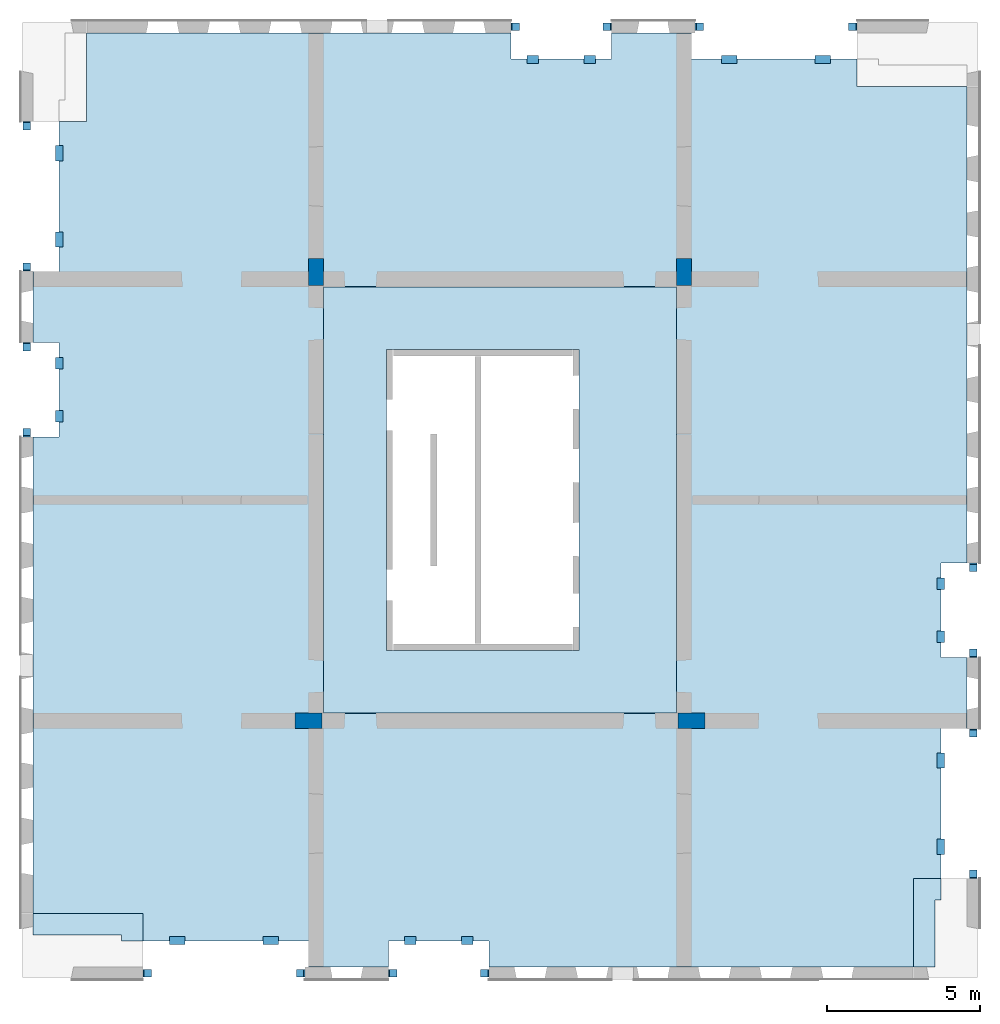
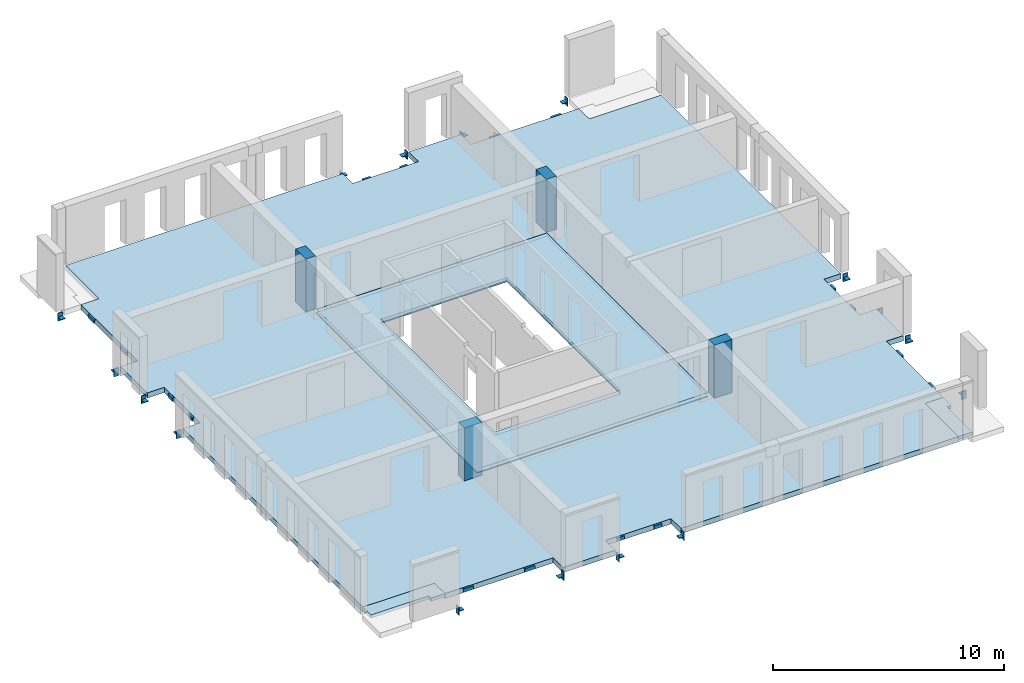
# One storey, part 1 of 6: 32 beams, 5 slabs, 4 columns, 3 openings.
"""IFC2X3 building model written with IfcOpenShell, lengths in millimetres."""

from ifc_helpers import new_model, entity, si_unit, converted_unit, derived_unit, direction, frame, frame_2d, origin, origin_2d_with_axis, place, context, subcontext, project, spatial, polyline, rectangle, outline, extrude, source, transform, mapped, material, layer, layer_set, layer_usage, type_object, type_shapes, element, save


model = new_model("IFC2X3")

# Units and contexts
model_context = context("Model", 3, precision=0.01, world=origin(), true_north=direction((6.12303176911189e-17, 1.0)))
body_context = subcontext(model_context, "Body", "Model", "MODEL_VIEW")
ifc_project = project(units=[si_unit("LENGTHUNIT", "METRE", prefix="MILLI"), si_unit("AREAUNIT", "SQUARE_METRE"), si_unit("VOLUMEUNIT", "CUBIC_METRE"), converted_unit("PLANEANGLEUNIT", "DEGREE", entity("IfcRatioMeasure", 0.0174532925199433), si_unit("PLANEANGLEUNIT", "RADIAN"), dimensions=[0, 0, 0, 0, 0, 0, 0]), si_unit("MASSUNIT", "GRAM", prefix="KILO"), derived_unit("MASSDENSITYUNIT", [(si_unit("MASSUNIT", "GRAM", prefix="KILO"), 1), (si_unit("LENGTHUNIT", "METRE"), -3)]), si_unit("TIMEUNIT", "SECOND"), si_unit("FREQUENCYUNIT", "HERTZ"), si_unit("THERMODYNAMICTEMPERATUREUNIT", "DEGREE_CELSIUS"), derived_unit("THERMALTRANSMITTANCEUNIT", [(si_unit("MASSUNIT", "GRAM", prefix="KILO"), 1), (si_unit("THERMODYNAMICTEMPERATUREUNIT", "KELVIN"), -1), (si_unit("TIMEUNIT", "SECOND"), -3)]), derived_unit("VOLUMETRICFLOWRATEUNIT", [(si_unit("LENGTHUNIT", "METRE"), 3), (si_unit("TIMEUNIT", "SECOND"), -1)]), si_unit("ELECTRICCURRENTUNIT", "AMPERE"), si_unit("ELECTRICVOLTAGEUNIT", "VOLT"), si_unit("POWERUNIT", "WATT"), si_unit("FORCEUNIT", "NEWTON", prefix="KILO"), si_unit("ILLUMINANCEUNIT", "LUX"), si_unit("LUMINOUSFLUXUNIT", "LUMEN"), si_unit("LUMINOUSINTENSITYUNIT", "CANDELA"), derived_unit("USERDEFINED", [(si_unit("MASSUNIT", "GRAM", prefix="KILO"), -1), (si_unit("LENGTHUNIT", "METRE"), -2), (si_unit("TIMEUNIT", "SECOND"), 3), (si_unit("LUMINOUSFLUXUNIT", "LUMEN"), 1)]), derived_unit("LINEARVELOCITYUNIT", [(si_unit("LENGTHUNIT", "METRE"), 1), (si_unit("TIMEUNIT", "SECOND"), -1)]), si_unit("PRESSUREUNIT", "PASCAL"), derived_unit("USERDEFINED", [(si_unit("LENGTHUNIT", "METRE"), -2), (si_unit("MASSUNIT", "GRAM", prefix="KILO"), 1), (si_unit("TIMEUNIT", "SECOND"), -2)])], contexts=[model_context])

# Site, building, storey
site_placement = place(None, origin())
site = spatial("IfcSite", under=ifc_project, at=site_placement, Name="Default", CompositionType="ELEMENT")
building_placement = place(site_placement, origin())
building = spatial("IfcBuilding", under=site, at=building_placement, Name="niet gebruiken", CompositionType="ELEMENT")
storey_placement = place(building_placement, frame((0.0, 0.0, 21060.0)))
storey = spatial("IfcBuildingStorey", under=building, at=storey_placement, Name="06 zesde verdieping", CompositionType="ELEMENT", Elevation=21060.0)

# Columns
ifc_material_1 = material(Name="NLRS_f2_beton ihwg")
column_type_1 = type_object("IfcColumnType", Name="500x880", PredefinedType="COLUMN", material=ifc_material_1)
shared_shape_1 = source(origin(), body_context, "Body", "SweptSolid", [
    extrude(rectangle(XDim=879.999999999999, YDim=500.000000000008, at=origin_2d_with_axis()), frame((135750.003540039, 24940.0, 20970.0), z_axis=(0.0, 0.0, 1.0), x_axis=(0.0, -1.0, 0.0)), (0.0, 0.0, 1.0), 2790.00000000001),
])
type_shapes(column_type_1, [shared_shape_1])
column_1_placement = place(storey_placement, frame((0.0, 0.0, -21060.0)))
element("IfcColumn", 1, at=column_1_placement, inside=storey, type_object=column_type_1, material=ifc_material_1, Name="NLRS_28.11_SCO_TLB_beton kolom ihwg_gen:500x880", ObjectType="500x880", context=body_context, shape_type="MappedRepresentation", body=[
    mapped(shared_shape_1, transform((0.0, 0.0, 0.0), scale=1.0)),
])
column_type_2 = type_object("IfcColumnType", Name="500x880", PredefinedType="COLUMN", material=ifc_material_1)
shared_shape_2 = source(origin(), body_context, "Body", "SweptSolid", [
    extrude(rectangle(XDim=879.999999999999, YDim=500.000000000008, at=origin_2d_with_axis()), frame((147750.0, 24940.0, 20970.0), z_axis=(0.0, 0.0, 1.0), x_axis=(0.0, -1.0, 0.0)), (0.0, 0.0, 1.0), 2790.00000000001),
])
type_shapes(column_type_2, [shared_shape_2])
column_2_placement = place(storey_placement, frame((0.0, 0.0, -21060.0)))
element("IfcColumn", 2, at=column_2_placement, inside=storey, type_object=column_type_2, material=ifc_material_1, Name="NLRS_28.11_SCO_TLB_beton kolom ihwg_gen:500x880", ObjectType="500x880", context=body_context, shape_type="MappedRepresentation", body=[
    mapped(shared_shape_2, transform((0.0, 0.0, 0.0), scale=1.0)),
])
column_type_3 = type_object("IfcColumnType", Name="500x880", PredefinedType="COLUMN", material=ifc_material_1)
shared_shape_3 = source(origin(), body_context, "Body", "SweptSolid", [
    extrude(rectangle(XDim=500.000000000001, YDim=880.000000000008, at=origin_2d_with_axis()), frame((135510.003540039, 10300.0115507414, 20970.0), z_axis=(0.0, 0.0, 1.0), x_axis=(0.0, -1.0, 0.0)), (0.0, 0.0, 1.0), 2790.00000000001),
])
type_shapes(column_type_3, [shared_shape_3])
column_3_placement = place(storey_placement, frame((0.0, 0.0, -21060.0)))
element("IfcColumn", 3, at=column_3_placement, inside=storey, type_object=column_type_3, material=ifc_material_1, Name="NLRS_28.11_SCO_TLB_beton kolom ihwg_gen:500x880", ObjectType="500x880", context=body_context, shape_type="MappedRepresentation", body=[
    mapped(shared_shape_3, transform((0.0, 0.0, 0.0), scale=1.0)),
])
column_type_4 = type_object("IfcColumnType", Name="500x880", PredefinedType="COLUMN", material=ifc_material_1)
shared_shape_4 = source(origin(), body_context, "Body", "SweptSolid", [
    extrude(rectangle(XDim=500.000000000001, YDim=880.000000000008, at=origin_2d_with_axis()), frame((147990.0, 10300.0, 20970.0), z_axis=(0.0, 0.0, 1.0), x_axis=(0.0, -1.0, 0.0)), (0.0, 0.0, 1.0), 2790.00000000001),
])
type_shapes(column_type_4, [shared_shape_4])
column_4_placement = place(storey_placement, frame((0.0, 0.0, -21060.0)))
element("IfcColumn", 4, at=column_4_placement, inside=storey, type_object=column_type_4, material=ifc_material_1, Name="NLRS_28.11_SCO_TLB_beton kolom ihwg_gen:500x880", ObjectType="500x880", context=body_context, shape_type="MappedRepresentation", body=[
    mapped(shared_shape_4, transform((0.0, 0.0, 0.0), scale=1.0)),
])

# Beams
ifc_material_2 = material(Name="NLRS_h2_staal")
beam_type_1 = type_object("IfcBeamType", Name="NLRS_28.11_SF_WPB_stalen schoen 1_gen", PredefinedType="BEAM", material=ifc_material_2)
shared_shape_5 = source(origin(), body_context, "Body", "SweptSolid", [
    extrude(outline(polyline([(-39.5000000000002, -20.5000000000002), (-1.50000000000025, -20.5000000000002), (20.5000000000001, 1.50000000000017), (20.5000000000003, 39.5000000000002), (-39.5000000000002, -20.5000000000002)])), frame((-77.5000000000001, -84.4999999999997, -55.5000000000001), z_axis=(1.0, 0.0, 0.0), x_axis=(0.0, -1.0, 0.0)), (0.0, 0.0, 1.0), 35.0),
    extrude(outline(polyline([(-39.5000000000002, -20.5000000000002), (-1.50000000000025, -20.5000000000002), (20.5000000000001, 1.50000000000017), (20.5000000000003, 39.5000000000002), (-39.5000000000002, -20.5000000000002)])), frame((42.5000000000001, -84.4999999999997, -55.5000000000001), z_axis=(1.0, 0.0, 0.0), x_axis=(0.0, -1.0, 0.0)), (0.0, 0.0, 1.0), 35.0),
    extrude(rectangle(XDim=235.0, YDim=34.9999999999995, at=frame_2d((0.0, 8.88178419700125e-15), x_axis=(1.0, 0.0))), frame((0.0, -122.5, -230.0), z_axis=(0.0, 0.0, 1.0), x_axis=(-1.0, 0.0, 0.0)), (0.0, 0.0, 1.0), 420.0),
    extrude(rectangle(XDim=235.0, YDim=240.0, at=origin_2d_with_axis()), frame((0.0, 15.0, -35.0), z_axis=(0.0, 0.0, 1.0), x_axis=(-1.0, 0.0, 0.0)), (0.0, 0.0, 1.0), 35.0),
])
type_shapes(beam_type_1, [shared_shape_5])
beam_1_placement = place(storey_placement, frame((157180.0, 12500.0, -310.0)))
element("IfcBeam", 5, at=beam_1_placement, inside=storey, type_object=beam_type_1, material=ifc_material_2, Name="NLRS_28.11_SF_WPB_stalen schoen 1_gen:NLRS_28.11_SF_WPB_stalen schoen 1_gen", ObjectType="NLRS_28.11_SF_WPB_stalen schoen 1_gen", context=body_context, shape_type="MappedRepresentation", body=[
    mapped(shared_shape_5, transform((0.0, 0.0, 0.0), scale=1.0)),
])
for number, where, z_axis, x_axis, name in (
    (6, (126320.0, 22500.0, -310.0), (0.0, 0.0, 1.0), (-1.0, 0.0, 0.0), "NLRS_28.11_SF_WPB_stalen schoen 1_gen:NLRS_28.11_SF_WPB_stalen schoen 1_gen"),
    (7, (157180.0, 15300.0, -310.0), (0.0, 0.0, 1.0), (-1.0, 0.0, 0.0), "NLRS_28.11_SF_WPB_stalen schoen 1_gen:NLRS_28.11_SF_WPB_stalen schoen 1_gen"),
):
    element("IfcBeam", number, at=place(storey_placement, frame(where, z_axis=z_axis, x_axis=x_axis)), inside=storey, type_object=beam_type_1, material=ifc_material_2, Name=name, ObjectType="NLRS_28.11_SF_WPB_stalen schoen 1_gen", context=body_context, shape_type="MappedRepresentation", body=[
        mapped(shared_shape_5, transform((0.0, 0.0, 0.0), scale=1.0)),
    ])
beam_2_placement = place(storey_placement, frame((126320.0, 19700.0, -310.0)))
element("IfcBeam", 8, at=beam_2_placement, inside=storey, type_object=beam_type_1, material=ifc_material_2, Name="NLRS_28.11_SF_WPB_stalen schoen 1_gen:NLRS_28.11_SF_WPB_stalen schoen 1_gen", ObjectType="NLRS_28.11_SF_WPB_stalen schoen 1_gen", context=body_context, shape_type="MappedRepresentation", body=[
    mapped(shared_shape_5, transform((0.0, 0.0, 0.0), scale=1.0)),
])
for number, where, z_axis, x_axis, name in (
    (9, (138250.0, 2070.0, -310.0), (0.0, 0.0, 1.0), (0.0, -1.0, 0.0), "NLRS_28.11_SF_WPB_stalen schoen 1_gen:NLRS_28.11_SF_WPB_stalen schoen 1_gen"),
    (10, (141250.0, 2070.0, -310.0), (0.0, 0.0, 1.0), (0.0, 1.0, 0.0), "NLRS_28.11_SF_WPB_stalen schoen 1_gen:NLRS_28.11_SF_WPB_stalen schoen 1_gen"),
    (11, (145250.0, 32930.0, -310.0), (0.0, 0.0, 1.0), (0.0, 1.0, 0.0), "NLRS_28.11_SF_WPB_stalen schoen 1_gen:NLRS_28.11_SF_WPB_stalen schoen 1_gen"),
    (12, (142250.0, 32930.0, -310.0), (0.0, 0.0, 1.0), (0.0, -1.0, 0.0), "NLRS_28.11_SF_WPB_stalen schoen 1_gen:NLRS_28.11_SF_WPB_stalen schoen 1_gen"),
):
    element("IfcBeam", number, at=place(storey_placement, frame(where, z_axis=z_axis, x_axis=x_axis)), inside=storey, type_object=beam_type_1, material=ifc_material_2, Name=name, ObjectType="NLRS_28.11_SF_WPB_stalen schoen 1_gen", context=body_context, shape_type="MappedRepresentation", body=[
        mapped(shared_shape_5, transform((0.0, 0.0, 0.0), scale=1.0)),
    ])
beam_type_2 = type_object("IfcBeamType", Name="NLRS_28.11_SF_WPB_stalen schoen 2_gen", PredefinedType="BEAM", material=ifc_material_2)
shared_shape_6 = source(origin(), body_context, "Body", "SweptSolid", [
    extrude(outline(polyline([(-39.5000000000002, -20.5000000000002), (-1.50000000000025, -20.5000000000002), (20.5000000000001, 1.50000000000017), (20.5000000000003, 39.5000000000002), (-39.5000000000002, -20.5000000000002)])), frame((-77.5000000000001, -79.4999999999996, -60.5000000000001), z_axis=(1.0, 0.0, 0.0), x_axis=(0.0, -1.0, 0.0)), (0.0, 0.0, 1.0), 35.0),
    extrude(outline(polyline([(-39.5000000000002, -20.5000000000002), (-1.50000000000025, -20.5000000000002), (20.5000000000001, 1.50000000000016), (20.5000000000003, 39.5000000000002), (-39.5000000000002, -20.5000000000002)])), frame((42.5000000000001, -79.4999999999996, -60.5000000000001), z_axis=(1.0, 0.0, 0.0), x_axis=(0.0, -1.0, 0.0)), (0.0, 0.0, 1.0), 35.0),
    extrude(rectangle(XDim=235.0, YDim=39.9999999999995, at=frame_2d((0.0, 8.88178419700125e-15), x_axis=(1.0, 0.0))), frame((0.0, -120.0, -230.0), z_axis=(0.0, 0.0, 1.0), x_axis=(-1.0, 0.0, 0.0)), (0.0, 0.0, 1.0), 420.0),
    extrude(rectangle(XDim=235.0, YDim=235.0, at=origin_2d_with_axis()), frame((0.0, 17.5000000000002, -40.0), z_axis=(0.0, 0.0, 1.0), x_axis=(-1.0, 0.0, 0.0)), (0.0, 0.0, 1.0), 39.9999999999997),
])
type_shapes(beam_type_2, [shared_shape_6])
beam_3_placement = place(storey_placement, frame((157180.0, 9900.0, -310.0), z_axis=(0.0, 0.0, 1.0), x_axis=(-1.0, 0.0, 0.0)))
element("IfcBeam", 13, at=beam_3_placement, inside=storey, type_object=beam_type_2, material=ifc_material_2, Name="NLRS_28.11_SF_WPB_stalen schoen 2_gen:NLRS_28.11_SF_WPB_stalen schoen 2_gen", ObjectType="NLRS_28.11_SF_WPB_stalen schoen 2_gen", context=body_context, shape_type="MappedRepresentation", body=[
    mapped(shared_shape_6, transform((0.0, 0.0, 0.0), scale=1.0)),
])
for number, where, name in (
    (14, (157180.0, 5300.0, -310.0), "NLRS_28.11_SF_WPB_stalen schoen 2_gen:NLRS_28.11_SF_WPB_stalen schoen 2_gen"),
    (15, (126320.0, 25100.0, -310.0), "NLRS_28.11_SF_WPB_stalen schoen 2_gen:NLRS_28.11_SF_WPB_stalen schoen 2_gen"),
):
    element("IfcBeam", number, at=place(storey_placement, frame(where)), inside=storey, type_object=beam_type_2, material=ifc_material_2, Name=name, ObjectType="NLRS_28.11_SF_WPB_stalen schoen 2_gen", context=body_context, shape_type="MappedRepresentation", body=[
        mapped(shared_shape_6, transform((0.0, 0.0, 0.0), scale=1.0)),
    ])
for number, where, z_axis, x_axis, name in (
    (16, (126320.0, 29700.0, -310.0), (0.0, 0.0, 1.0), (-1.0, 0.0, 0.0), "NLRS_28.11_SF_WPB_stalen schoen 2_gen:NLRS_28.11_SF_WPB_stalen schoen 2_gen"),
    (17, (135250.0, 2070.0, -310.0), (0.0, 0.0, 1.0), (0.0, 1.0, 0.0), "NLRS_28.11_SF_WPB_stalen schoen 2_gen:NLRS_28.11_SF_WPB_stalen schoen 2_gen"),
    (18, (130250.0, 2070.0, -310.0), (0.0, 0.0, 1.0), (0.0, -1.0, 0.0), "NLRS_28.11_SF_WPB_stalen schoen 2_gen:NLRS_28.11_SF_WPB_stalen schoen 2_gen"),
    (19, (148250.0, 32930.0, -310.0), (0.0, 0.0, 1.0), (0.0, -1.0, 0.0), "NLRS_28.11_SF_WPB_stalen schoen 2_gen:NLRS_28.11_SF_WPB_stalen schoen 2_gen"),
    (20, (153250.0, 32930.0, -310.0), (0.0, 0.0, 1.0), (0.0, 1.0, 0.0), "NLRS_28.11_SF_WPB_stalen schoen 2_gen:NLRS_28.11_SF_WPB_stalen schoen 2_gen"),
):
    element("IfcBeam", number, at=place(storey_placement, frame(where, z_axis=z_axis, x_axis=x_axis)), inside=storey, type_object=beam_type_2, material=ifc_material_2, Name=name, ObjectType="NLRS_28.11_SF_WPB_stalen schoen 2_gen", context=body_context, shape_type="MappedRepresentation", body=[
        mapped(shared_shape_6, transform((0.0, 0.0, 0.0), scale=1.0)),
    ])
beam_type_3 = type_object("IfcBeamType", Name="NLRS_28.11_SF_WPB_stalen handje 7 lang 375_gen:NLRS_28.11_SF_WPB_stalen handje 7_gen", PredefinedType="BEAM")
beam_4_placement = place(storey_placement, frame((156235.125015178, 9255.24886461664, -93.0), z_axis=(0.0, 0.0, 1.0), x_axis=(0.0, -1.0, 0.0)))
element("IfcBeam", 21, at=beam_4_placement, inside=storey, type_object=beam_type_3, material=ifc_material_2, Name="NLRS_28.11_SF_WPB_stalen handje 7 lang 375_gen:NLRS_28.11_SF_WPB_stalen handje 7_gen", ObjectType="NLRS_28.11_SF_WPB_stalen handje 7 lang 375_gen:NLRS_28.11_SF_WPB_stalen handje 7_gen", context=body_context, shape_type="SweptSolid", body=[
    extrude(outline(polyline([(-70.6666666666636, -153.333333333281), (-40.6666666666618, -153.333333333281), (-40.6666666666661, 61.6666666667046), (111.333333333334, 61.6666666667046), (111.333333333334, 91.6666666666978), (-70.6666666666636, 91.6666666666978), (-70.6666666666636, -153.333333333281)])), frame((0.0, -91.6666666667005, -70.6666666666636), z_axis=(1.0, 0.0, 0.0), x_axis=(0.0, 0.0, -1.0)), (0.0, 0.0, 1.0), 500.000000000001),
])
beam_5_placement = place(storey_placement, frame((156235.125015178, 6445.2458243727, -93.0), z_axis=(0.0, 0.0, 1.0), x_axis=(0.0, -1.0, 0.0)))
element("IfcBeam", 22, at=beam_5_placement, inside=storey, type_object=beam_type_3, material=ifc_material_2, Name="NLRS_28.11_SF_WPB_stalen handje 7 lang 375_gen:NLRS_28.11_SF_WPB_stalen handje 7_gen", ObjectType="NLRS_28.11_SF_WPB_stalen handje 7 lang 375_gen:NLRS_28.11_SF_WPB_stalen handje 7_gen", context=body_context, shape_type="SweptSolid", body=[
    extrude(outline(polyline([(-70.6666666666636, -153.33333333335), (-40.6666666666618, -153.33333333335), (-40.6666666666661, 61.6666666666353), (111.333333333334, 61.6666666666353), (111.333333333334, 91.6666666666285), (-70.6666666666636, 91.6666666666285), (-70.6666666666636, -153.33333333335)])), frame((0.0, -91.6666666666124, -70.6666666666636), z_axis=(1.0, 0.0, 0.0), x_axis=(0.0, 0.0, -1.0)), (0.0, 0.0, 1.0), 500.000000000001),
])
beam_6_placement = place(storey_placement, frame((127264.874984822, 25744.7511353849, -93.0), z_axis=(0.0, 0.0, 1.0), x_axis=(0.0, 1.0, 0.0)))
element("IfcBeam", 23, at=beam_6_placement, inside=storey, type_object=beam_type_3, material=ifc_material_2, Name="NLRS_28.11_SF_WPB_stalen handje 7 lang 375_gen:NLRS_28.11_SF_WPB_stalen handje 7_gen", ObjectType="NLRS_28.11_SF_WPB_stalen handje 7 lang 375_gen:NLRS_28.11_SF_WPB_stalen handje 7_gen", context=body_context, shape_type="SweptSolid", body=[
    extrude(outline(polyline([(-70.6666666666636, -153.333333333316), (-40.6666666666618, -153.333333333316), (-40.6666666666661, 61.66666666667), (111.333333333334, 61.66666666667), (111.333333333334, 91.6666666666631), (-70.6666666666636, 91.6666666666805), (-70.6666666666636, -153.333333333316)])), frame((0.0, -91.6666666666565, -70.6666666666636), z_axis=(1.0, 0.0, 0.0), x_axis=(0.0, 0.0, -1.0)), (0.0, 0.0, 1.0), 500.0),
])
beam_7_placement = place(storey_placement, frame((127264.874984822, 28554.7541756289, -93.0), z_axis=(0.0, 0.0, 1.0), x_axis=(0.0, 1.0, 0.0)))
element("IfcBeam", 24, at=beam_7_placement, inside=storey, type_object=beam_type_3, material=ifc_material_2, Name="NLRS_28.11_SF_WPB_stalen handje 7 lang 375_gen:NLRS_28.11_SF_WPB_stalen handje 7_gen", ObjectType="NLRS_28.11_SF_WPB_stalen handje 7 lang 375_gen:NLRS_28.11_SF_WPB_stalen handje 7_gen", context=body_context, shape_type="SweptSolid", body=[
    extrude(outline(polyline([(-70.6666666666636, -153.333333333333), (-40.6666666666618, -153.333333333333), (-40.6666666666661, 61.6666666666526), (111.333333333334, 61.6666666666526), (111.333333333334, 91.6666666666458), (-70.6666666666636, 91.6666666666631), (-70.6666666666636, -153.333333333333)])), frame((0.0, -91.6666666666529, -70.6666666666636), z_axis=(1.0, 0.0, 0.0), x_axis=(0.0, 0.0, -1.0)), (0.0, 0.0, 1.0), 500.0),
])
for number, where, z_axis, x_axis, name in (
    (25, (140862.631597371, 3015.23611279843, -93.0), (0.0, 0.0, 1.0), (-1.0, 0.0, 0.0), "NLRS_28.11_SF_WPB_stalen handje 7 lang 375_gen:NLRS_28.11_SF_WPB_stalen handje 7_gen"),
    (26, (139012.628555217, 3015.23611279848, -93.0), (0.0, 0.0, 1.0), (-1.0, 0.0, 0.0), "NLRS_28.11_SF_WPB_stalen handje 7 lang 375_gen:NLRS_28.11_SF_WPB_stalen handje 7_gen"),
):
    element("IfcBeam", number, at=place(storey_placement, frame(where, z_axis=z_axis, x_axis=x_axis)), inside=storey, type_object=beam_type_3, material=ifc_material_2, Name=name, ObjectType="NLRS_28.11_SF_WPB_stalen handje 7 lang 375_gen:NLRS_28.11_SF_WPB_stalen handje 7_gen", context=body_context, shape_type="SweptSolid", body=[
        extrude(outline(polyline([(-70.6666666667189, -153.333333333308), (-40.6666666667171, -153.333333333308), (-40.6666666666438, 61.6666666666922), (111.333333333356, 61.6666666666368), (111.333333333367, 91.6666666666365), (-70.6666666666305, 91.6666666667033), (-70.6666666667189, -153.333333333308)])), frame((0.0, -91.6666666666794, -70.6666666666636), z_axis=(1.0, 0.0, 0.0), x_axis=(0.0, 0.0, -1.0)), (0.0, 0.0, 1.0), 375.000000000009),
    ])
for number, where, z_axis, x_axis, name in (
    (27, (134525.131597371, 3015.2361127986, -93.0), (0.0, 0.0, 1.0), (-1.0, 0.0, 0.0), "NLRS_28.11_SF_WPB_stalen handje 7 lang 375_gen:NLRS_28.11_SF_WPB_stalen handje 7_gen"),
    (28, (131475.128555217, 3015.23611279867, -93.0), (0.0, 0.0, 1.0), (-1.0, 0.0, 0.0), "NLRS_28.11_SF_WPB_stalen handje 7 lang 375_gen:NLRS_28.11_SF_WPB_stalen handje 7_gen"),
):
    element("IfcBeam", number, at=place(storey_placement, frame(where, z_axis=z_axis, x_axis=x_axis)), inside=storey, type_object=beam_type_3, material=ifc_material_2, Name=name, ObjectType="NLRS_28.11_SF_WPB_stalen handje 7 lang 375_gen:NLRS_28.11_SF_WPB_stalen handje 7_gen", context=body_context, shape_type="SweptSolid", body=[
        extrude(outline(polyline([(-70.6666666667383, -153.333333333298), (-40.6666666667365, -153.333333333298), (-40.666666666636, 61.6666666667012), (111.333333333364, 61.6666666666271), (111.333333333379, 91.6666666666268), (-70.6666666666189, 91.666666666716), (-70.6666666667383, -153.333333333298)])), frame((0.0, -91.6666666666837, -70.6666666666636), z_axis=(1.0, 0.0, 0.0), x_axis=(0.0, 0.0, -1.0)), (0.0, 0.0, 1.0), 500.000000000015),
    ])
beam_8_placement = place(storey_placement, frame((142637.368402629, 31984.7638872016, -93.0)))
element("IfcBeam", 29, at=beam_8_placement, inside=storey, type_object=beam_type_3, material=ifc_material_2, Name="NLRS_28.11_SF_WPB_stalen handje 7 lang 375_gen:NLRS_28.11_SF_WPB_stalen handje 7_gen", ObjectType="NLRS_28.11_SF_WPB_stalen handje 7 lang 375_gen:NLRS_28.11_SF_WPB_stalen handje 7_gen", context=body_context, shape_type="SweptSolid", body=[
    extrude(outline(polyline([(-70.66666666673, -153.333333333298), (-40.6666666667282, -153.333333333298), (-40.6666666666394, 61.6666666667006), (111.333333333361, 61.6666666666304), (111.333333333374, 91.6666666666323), (-70.6666666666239, 91.6666666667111), (-70.66666666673, -153.333333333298)])), frame((0.0, -91.6666666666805, -70.6666666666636), z_axis=(1.0, 0.0, 0.0), x_axis=(0.0, 0.0, -1.0)), (0.0, 0.0, 1.0), 375.000000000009),
])
beam_9_placement = place(storey_placement, frame((144487.371444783, 31984.7638872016, -93.0)))
element("IfcBeam", 30, at=beam_9_placement, inside=storey, type_object=beam_type_3, material=ifc_material_2, Name="NLRS_28.11_SF_WPB_stalen handje 7 lang 375_gen:NLRS_28.11_SF_WPB_stalen handje 7_gen", ObjectType="NLRS_28.11_SF_WPB_stalen handje 7 lang 375_gen:NLRS_28.11_SF_WPB_stalen handje 7_gen", context=body_context, shape_type="SweptSolid", body=[
    extrude(outline(polyline([(-70.66666666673, -153.333333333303), (-40.6666666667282, -153.333333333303), (-40.6666666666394, 61.6666666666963), (111.333333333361, 61.6666666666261), (111.333333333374, 91.6666666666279), (-70.6666666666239, 91.6666666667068), (-70.66666666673, -153.333333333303)])), frame((0.0, -91.6666666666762, -70.6666666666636), z_axis=(1.0, 0.0, 0.0), x_axis=(0.0, 0.0, -1.0)), (0.0, 0.0, 1.0), 375.000000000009),
])
beam_10_placement = place(storey_placement, frame((148974.868402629, 31984.7638872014, -93.0)))
element("IfcBeam", 31, at=beam_10_placement, inside=storey, type_object=beam_type_3, material=ifc_material_2, Name="NLRS_28.11_SF_WPB_stalen handje 7 lang 375_gen:NLRS_28.11_SF_WPB_stalen handje 7_gen", ObjectType="NLRS_28.11_SF_WPB_stalen handje 7 lang 375_gen:NLRS_28.11_SF_WPB_stalen handje 7_gen", context=body_context, shape_type="SweptSolid", body=[
    extrude(outline(polyline([(-70.66666666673, -153.333333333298), (-40.6666666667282, -153.333333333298), (-40.6666666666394, 61.6666666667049), (111.333333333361, 61.6666666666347), (111.333333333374, 91.6666666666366), (-70.6666666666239, 91.6666666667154), (-70.66666666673, -153.333333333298)])), frame((0.0, -91.6666666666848, -70.6666666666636), z_axis=(1.0, 0.0, 0.0), x_axis=(0.0, 0.0, -1.0)), (0.0, 0.0, 1.0), 500.000000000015),
])
beam_11_placement = place(storey_placement, frame((152024.871444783, 31984.7638872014, -93.0)))
element("IfcBeam", 32, at=beam_11_placement, inside=storey, type_object=beam_type_3, material=ifc_material_2, Name="NLRS_28.11_SF_WPB_stalen handje 7 lang 375_gen:NLRS_28.11_SF_WPB_stalen handje 7_gen", ObjectType="NLRS_28.11_SF_WPB_stalen handje 7 lang 375_gen:NLRS_28.11_SF_WPB_stalen handje 7_gen", context=body_context, shape_type="SweptSolid", body=[
    extrude(outline(polyline([(-70.66666666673, -153.333333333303), (-40.6666666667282, -153.333333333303), (-40.6666666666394, 61.6666666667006), (111.333333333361, 61.6666666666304), (111.333333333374, 91.6666666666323), (-70.6666666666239, 91.6666666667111), (-70.66666666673, -153.333333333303)])), frame((0.0, -91.6666666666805, -70.6666666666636), z_axis=(1.0, 0.0, 0.0), x_axis=(0.0, 0.0, -1.0)), (0.0, 0.0, 1.0), 500.000000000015),
])
beam_12_placement = place(storey_placement, frame((156235.0, 14952.5097115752, -93.0), z_axis=(0.0, 0.0, 1.0), x_axis=(0.0, -1.0, 0.0)))
element("IfcBeam", 33, at=beam_12_placement, inside=storey, type_object=beam_type_3, material=ifc_material_2, Name="NLRS_28.11_SF_WPB_stalen handje 7 lang 375_gen:NLRS_28.11_SF_WPB_stalen handje 7_gen", ObjectType="NLRS_28.11_SF_WPB_stalen handje 7 lang 375_gen:NLRS_28.11_SF_WPB_stalen handje 7_gen", context=body_context, shape_type="SweptSolid", body=[
    extrude(outline(polyline([(-70.6666666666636, -153.333333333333), (-40.6666666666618, -153.333333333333), (-40.6666666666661, 61.66666666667), (111.333333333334, 61.66666666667), (111.333333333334, 91.6666666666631), (-70.6666666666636, 91.6666666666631), (-70.6666666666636, -153.333333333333)])), frame((0.0, -91.6666666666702, -70.6666666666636), z_axis=(1.0, 0.0, 0.0), x_axis=(0.0, 0.0, -1.0)), (0.0, 0.0, 1.0), 375.000000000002),
])
beam_13_placement = place(storey_placement, frame((156235.0, 13222.5097115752, -93.0), z_axis=(0.0, 0.0, 1.0), x_axis=(0.0, -1.0, 0.0)))
element("IfcBeam", 34, at=beam_13_placement, inside=storey, type_object=beam_type_3, material=ifc_material_2, Name="NLRS_28.11_SF_WPB_stalen handje 7 lang 375_gen:NLRS_28.11_SF_WPB_stalen handje 7_gen", ObjectType="NLRS_28.11_SF_WPB_stalen handje 7 lang 375_gen:NLRS_28.11_SF_WPB_stalen handje 7_gen", context=body_context, shape_type="SweptSolid", body=[
    extrude(outline(polyline([(-70.6666666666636, -153.333333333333), (-40.6666666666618, -153.333333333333), (-40.6666666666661, 61.66666666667), (111.333333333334, 61.66666666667), (111.333333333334, 91.6666666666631), (-70.6666666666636, 91.6666666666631), (-70.6666666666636, -153.333333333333)])), frame((0.0, -91.666666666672, -70.6666666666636), z_axis=(1.0, 0.0, 0.0), x_axis=(0.0, 0.0, -1.0)), (0.0, 0.0, 1.0), 375.000000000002),
])
beam_14_placement = place(storey_placement, frame((127265.0, 20047.4902884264, -93.0), z_axis=(0.0, 0.0, 1.0), x_axis=(0.0, 1.0, 0.0)))
element("IfcBeam", 35, at=beam_14_placement, inside=storey, type_object=beam_type_3, material=ifc_material_2, Name="NLRS_28.11_SF_WPB_stalen handje 7 lang 375_gen:NLRS_28.11_SF_WPB_stalen handje 7_gen", ObjectType="NLRS_28.11_SF_WPB_stalen handje 7 lang 375_gen:NLRS_28.11_SF_WPB_stalen handje 7_gen", context=body_context, shape_type="SweptSolid", body=[
    extrude(outline(polyline([(-70.6666666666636, -153.333333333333), (-40.6666666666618, -153.333333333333), (-40.6666666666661, 61.66666666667), (111.333333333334, 61.6666666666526), (111.333333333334, 91.6666666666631), (-70.6666666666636, 91.6666666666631), (-70.6666666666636, -153.333333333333)])), frame((0.0, -91.6666666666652, -70.6666666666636), z_axis=(1.0, 0.0, 0.0), x_axis=(0.0, 0.0, -1.0)), (0.0, 0.0, 1.0), 375.000000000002),
])
beam_15_placement = place(storey_placement, frame((127265.0, 21777.4902884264, -93.0), z_axis=(0.0, 0.0, 1.0), x_axis=(0.0, 1.0, 0.0)))
element("IfcBeam", 36, at=beam_15_placement, inside=storey, type_object=beam_type_3, material=ifc_material_2, Name="NLRS_28.11_SF_WPB_stalen handje 7 lang 375_gen:NLRS_28.11_SF_WPB_stalen handje 7_gen", ObjectType="NLRS_28.11_SF_WPB_stalen handje 7 lang 375_gen:NLRS_28.11_SF_WPB_stalen handje 7_gen", context=body_context, shape_type="SweptSolid", body=[
    extrude(outline(polyline([(-70.6666666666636, -153.333333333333), (-40.6666666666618, -153.333333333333), (-40.6666666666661, 61.66666666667), (111.333333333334, 61.6666666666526), (111.333333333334, 91.6666666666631), (-70.6666666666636, 91.6666666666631), (-70.6666666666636, -153.333333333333)])), frame((0.0, -91.6666666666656, -70.6666666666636), z_axis=(1.0, 0.0, 0.0), x_axis=(0.0, 0.0, -1.0)), (0.0, 0.0, 1.0), 375.000000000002),
])

# Slab, opening
ifc_layer_1 = layer(ifc_material_1, 230.0)
ifc_layer_set_1 = layer_set([ifc_layer_1], Name="Floor:NLRS_23.21_FL_vloer=230_gen")
ifc_layer_usage_1 = layer_usage(ifc_layer_set_1, "AXIS3", "POSITIVE", 0.0)
slab_1_placement = place(storey_placement, frame((136000.0, 10549.7638872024, -320.0)))
slab_1 = element("IfcSlab", 37, at=slab_1_placement, inside=storey, material=ifc_layer_usage_1, Name="Floor:NLRS_23.21_FL_vloer=230_gen", ObjectType="Floor:NLRS_23.21_FL_vloer=230_gen", PredefinedType="FLOOR", context=body_context, shape_type="SweptSolid", body=[
    extrude(rectangle(XDim=13900.2361127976, YDim=11500.0, at=frame_2d((0.0, 0.0), x_axis=(0.0, -1.0))), frame((5750.0, 6950.11805639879, 230.0), z_axis=(0.0, 0.0, -1.0), x_axis=(-1.0, 0.0, 0.0)), (0.0, 0.0, 1.0), 230.0),
])
opening_1_placement = place(slab_1_placement, frame((5190.0, 6950.23611279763, 230.0)))
element("IfcOpeningElement", 38, at=opening_1_placement, cuts=slab_1, Name="Floor:NLRS_23.21_FL_vloer=230_gen:2", ObjectType="Opening", context=body_context, shape_type="SweptSolid", body=[
    extrude(rectangle(XDim=9800.0, YDim=6279.99999999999, at=origin_2d_with_axis()), frame((0.0, 0.0, 0.0), z_axis=(0.0, 0.0, -1.0), x_axis=(0.0, -1.0, 0.0)), (0.0, 0.0, 1.0), 230.0),
])

# Slabs
ifc_layer_2 = layer(ifc_material_1, 170.0)
ifc_layer_set_2 = layer_set([ifc_layer_2], Name="Floor:NLRS_23.21_FL_beton ihwg d=170_gen")
ifc_layer_usage_2 = layer_usage(ifc_layer_set_2, "AXIS3", "POSITIVE", 0.0)
slab_2_placement = place(storey_placement, origin())
element("IfcSlab", 39, at=slab_2_placement, inside=storey, material=ifc_layer_usage_2, Name="Floor:NLRS_23.21_FL_beton ihwg d=170_gen", ObjectType="Floor:NLRS_23.21_FL_beton ihwg d=170_gen", PredefinedType="FLOOR", context=body_context, shape_type="SweptSolid", body=[
    extrude(outline(polyline([(-1693.33333333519, -533.333333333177), (1196.66666666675, -533.333333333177), (1196.66666666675, 366.666666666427), (496.666666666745, 366.666666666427), (496.666666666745, 166.666666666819), (-1693.33333333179, 166.666666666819), (-1693.33333333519, -533.333333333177)])), frame((155763.333333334, 3963.33333333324, -90.0), z_axis=(0.0, 0.0, -1.0), x_axis=(0.0, 1.0, 0.0)), (0.0, 0.0, 1.0), 170.0),
])
ifc_layer_usage_3 = layer_usage(ifc_layer_set_2, "AXIS3", "POSITIVE", 0.0)
slab_3_placement = place(storey_placement, origin())
element("IfcSlab", 40, at=slab_3_placement, inside=storey, material=ifc_layer_usage_3, Name="Floor:NLRS_23.21_FL_beton ihwg d=170_gen", ObjectType="Floor:NLRS_23.21_FL_beton ihwg d=170_gen", PredefinedType="FLOOR", context=body_context, shape_type="SweptSolid", body=[
    extrude(outline(polyline([(-166.666666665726, -2160.0), (533.333333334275, -2160.0), (533.33333333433, 1430.0), (-366.666666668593, 1430.0), (-366.666666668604, 730.0), (-166.666666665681, 730.0), (-166.666666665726, -2160.0)])), frame((128680.0, 3486.66666666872, -90.0), z_axis=(0.0, 0.0, -1.0), x_axis=(0.0, 1.0, 0.0)), (0.0, 0.0, 1.0), 170.0),
])

# Slab, opening
ifc_layer_3 = layer(ifc_material_1, 170.0)
ifc_material_3 = material(Name="NLRS_f2_beton prefab")
ifc_layer_4 = layer(ifc_material_3, 100.0)
ifc_layer_set_3 = layer_set([ifc_layer_3, ifc_layer_4], Name="Floor:NLRS_23.21_FL_breedplaat d=100/270_gen")
ifc_layer_usage_4 = layer_usage(ifc_layer_set_3, "AXIS3", "POSITIVE", 0.0)
slab_4_placement = place(storey_placement, frame((126520.0, 2270.0, -360.0)))
slab_4 = element("IfcSlab", 41, at=slab_4_placement, inside=storey, material=ifc_layer_usage_4, Name="Floor:NLRS_23.21_FL_breedplaat d=100/270_gen", ObjectType="Floor:NLRS_23.21_FL_breedplaat d=100/270_gen", PredefinedType="FLOOR", context=body_context, shape_type="SweptSolid", body=[
    extrude(outline(polyline([(-360.0, 15230.0), (-360.0, 14380.0), (-3640.0, 14380.0), (-3640.0, 15230.0), (-6250.0, 15230.0), (-6250.0, 14380.0), (-11640.0, 14380.0), (-11640.0, 13480.0), (-15230.0, 13480.0), (-15230.0, -2060.0), (-14380.0, -2060.0), (-14380.0, -5140.0), (-15230.0, -5140.0), (-15230.0, -7450.0), (-14380.0, -7450.0), (-14380.0, -12340.0), (-13480.0, -12340.0), (-13480.0, -15230.0), (360.0, -15230.0), (360.0, -14380.0), (3640.0, -14380.0), (3640.0, -15230.0), (6250.0, -15230.0), (6250.0, -14380.0), (11640.0, -14380.0), (11640.0, -13480.0), (15230.0, -13480.0), (15230.0, 2060.0), (14380.0, 2060.0), (14380.0, 5140.0), (15230.0, 5140.0), (15230.0, 7450.0), (14380.0, 7450.0), (14380.0, 12340.0), (13480.0, 12340.0), (13480.0, 15230.0), (-360.0, 15230.0)])), frame((15230.0, 15230.0, 270.0), z_axis=(0.0, 0.0, -1.0), x_axis=(-1.0, 0.0, 0.0)), (0.0, 0.0, 1.0), 269.999999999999),
])
opening_2_placement = place(slab_4_placement, frame((15230.0, 15230.0, 270.0)))
element("IfcOpeningElement", 42, at=opening_2_placement, cuts=slab_4, Name="Floor:NLRS_23.21_FL_breedplaat d=100/270_gen:2", ObjectType="Opening", context=body_context, shape_type="SweptSolid", body=[
    extrude(rectangle(XDim=13899.9999999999, YDim=11500.0, at=origin_2d_with_axis()), frame((0.0, 0.0, 0.0), z_axis=(0.0, 0.0, -1.0), x_axis=(0.0, -1.0, 0.0)), (0.0, 0.0, 1.0), 269.999999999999),
])

ifc_layer_5 = layer(ifc_material_3, 60.0)
ifc_layer_set_4 = layer_set([ifc_layer_5], Name="Floor:NLRS_23.21_FL_breedplaat d=60_gen")
ifc_layer_usage_5 = layer_usage(ifc_layer_set_4, "AXIS3", "POSITIVE", 0.0)
slab_5_placement = place(storey_placement, frame((135990.0, 10540.0, -320.0)))
slab_5 = element("IfcSlab", 43, at=slab_5_placement, inside=storey, material=ifc_layer_usage_5, Name="Floor:NLRS_23.21_FL_breedplaat d=60_gen", ObjectType="Floor:NLRS_23.21_FL_breedplaat d=60_gen", PredefinedType="FLOOR", context=body_context, shape_type="SweptSolid", body=[
    extrude(rectangle(XDim=13919.9999999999, YDim=11520.0, at=frame_2d((0.0, 0.0), x_axis=(0.0, -1.0))), frame((5760.0, 6960.0, 60.0), z_axis=(0.0, 0.0, -1.0), x_axis=(-1.0, 0.0, 0.0)), (0.0, 0.0, 1.0), 59.9999999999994),
])
opening_3_placement = place(slab_5_placement, frame((5200.0, 6960.0, 60.0)))
element("IfcOpeningElement", 44, at=opening_3_placement, cuts=slab_5, Name="Floor:NLRS_23.21_FL_breedplaat d=60_gen:2", ObjectType="Opening", context=body_context, shape_type="SweptSolid", body=[
    extrude(rectangle(XDim=9820.0, YDim=6299.99999999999, at=origin_2d_with_axis()), frame((0.0, 0.0, 0.0), z_axis=(0.0, 0.0, -1.0), x_axis=(0.0, -1.0, 0.0)), (0.0, 0.0, 1.0), 59.9999999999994),
])

save(model, "model.ifc")
